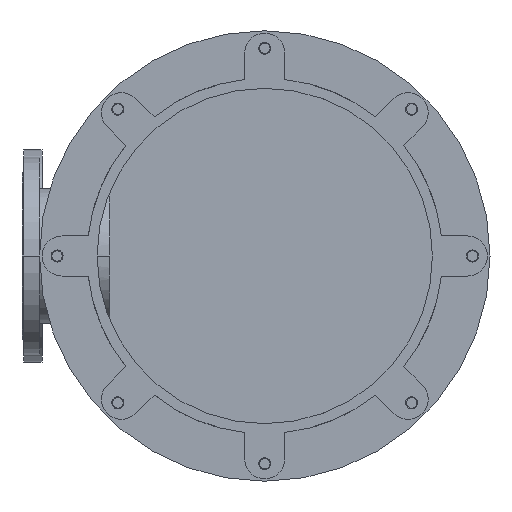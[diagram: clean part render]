
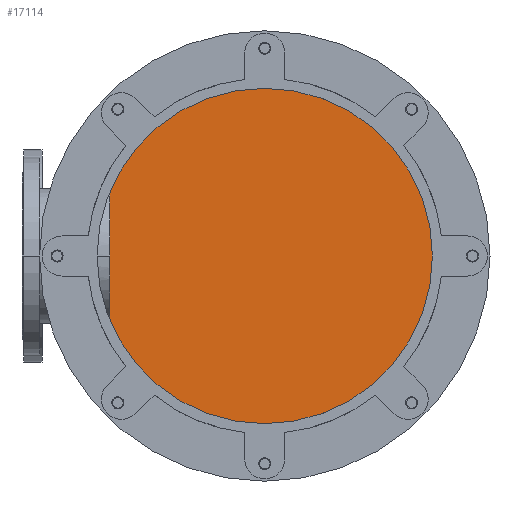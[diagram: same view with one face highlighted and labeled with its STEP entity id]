
A CAD part, front view. The second image highlights one B-rep face of the part: STEP entity #17114.
In plain terms, the highlighted planar face has unit normal (0, -1, 0).
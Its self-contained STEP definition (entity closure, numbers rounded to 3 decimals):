
#5052=CARTESIAN_POINT('',(0.,1204.,0.));
#5053=DIRECTION('',(0.,-1.,0.));
#5054=DIRECTION('',(0.,0.,1.));
#5055=AXIS2_PLACEMENT_3D('',#5052,#5053,#5054);
#5225=CARTESIAN_POINT('',(0.,1204.,0.));
#5226=DIRECTION('',(0.,-1.,0.));
#5227=DIRECTION('',(0.,0.,-1.));
#5228=AXIS2_PLACEMENT_3D('',#5225,#5226,#5227);
#9214=CARTESIAN_POINT('',(0.,1204.,350.));
#9215=CARTESIAN_POINT('',(0.,1204.,-350.));
#9216=VERTEX_POINT('',#9214);
#9217=VERTEX_POINT('',#9215);
#17104=CARTESIAN_POINT('',(0.,1204.,0.));
#17105=DIRECTION('',(0.,1.,0.));
#17106=DIRECTION('',(0.,0.,-1.));
#17107=AXIS2_PLACEMENT_3D('',#17104,#17105,#17106);
#17108=PLANE('',#17107);
#17109=ORIENTED_EDGE('',*,*,#17082,.F.);
#17111=ORIENTED_EDGE('',*,*,#17110,.F.);
#17112=EDGE_LOOP('',(#17109,#17111));
#17113=FACE_OUTER_BOUND('',#17112,.F.);
#17114=ADVANCED_FACE('',(#17113),#17108,.F.);
#5056=CIRCLE('',#5055,350.);
#5229=CIRCLE('',#5228,350.);
#17082=EDGE_CURVE('',#9216,#9217,#5056,.T.);
#17110=EDGE_CURVE('',#9217,#9216,#5229,.T.);
